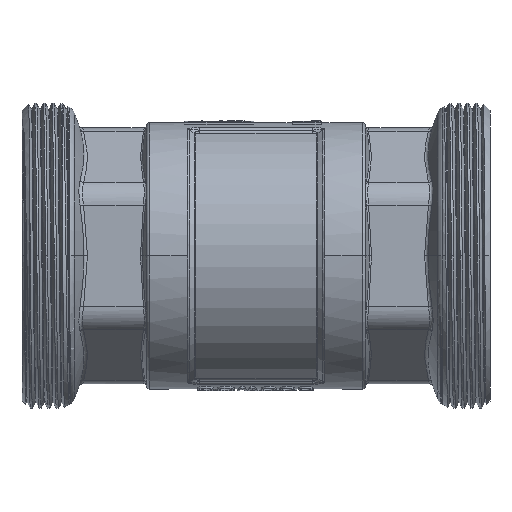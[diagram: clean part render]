
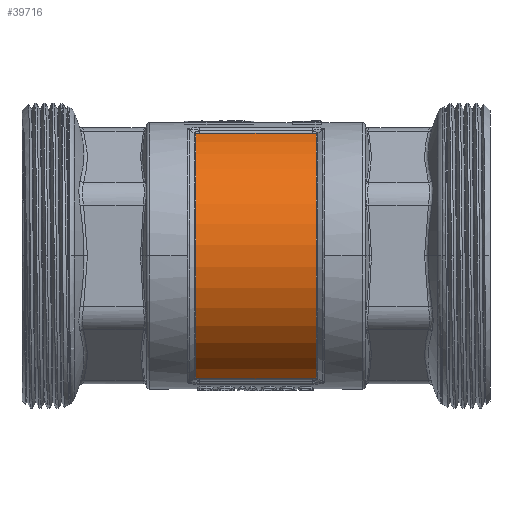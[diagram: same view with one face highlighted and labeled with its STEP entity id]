
A CAD part, front view. The second image highlights one B-rep face of the part: STEP entity #39716.
In plain terms, the highlighted cylindrical face has radius 34.5 mm (diameter 69 mm), a partial arc.
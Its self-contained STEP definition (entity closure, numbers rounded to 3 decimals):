
#12974=CARTESIAN_POINT('',(16.032,0.,0.));
#12975=DIRECTION('',(1.,0.,0.));
#12976=DIRECTION('',(0.,-0.33,0.944));
#12977=AXIS2_PLACEMENT_3D('',#12974,#12975,#12976);
#12989=CARTESIAN_POINT('',(16.032,-11.383,
-32.568));
#12990=CARTESIAN_POINT('',(16.032,-11.349,
-32.58));
#12991=CARTESIAN_POINT('',(16.024,-11.281,
-32.604));
#12992=CARTESIAN_POINT('',(15.984,-11.176,
-32.64));
#12993=CARTESIAN_POINT('',(15.907,-11.074,
-32.674));
#12994=CARTESIAN_POINT('',(15.79,-10.984,
-32.705));
#12995=CARTESIAN_POINT('',(15.638,-10.91,
-32.729));
#12996=CARTESIAN_POINT('',(15.455,-10.857,
-32.747));
#12997=CARTESIAN_POINT('',(15.243,-10.824,
-32.758));
#12998=CARTESIAN_POINT('',(15.083,-10.816,
-32.761));
#12999=CARTESIAN_POINT('',(14.999,-10.816,
-32.761));
#13017=DIRECTION('',(-1.,0.,0.));
#13018=VECTOR('',#13017,29.998);
#13019=CARTESIAN_POINT('',(14.999,-10.816,
-32.761));
#13020=LINE('',#13019,#13018);
#13030=CARTESIAN_POINT('',(-14.999,-10.816,
-32.761));
#13031=CARTESIAN_POINT('',(-15.083,-10.816,
-32.761));
#13032=CARTESIAN_POINT('',(-15.243,-10.824,
-32.758));
#13033=CARTESIAN_POINT('',(-15.455,-10.857,
-32.747));
#13034=CARTESIAN_POINT('',(-15.638,-10.91,
-32.729));
#13035=CARTESIAN_POINT('',(-15.79,-10.984,
-32.705));
#13036=CARTESIAN_POINT('',(-15.907,-11.074,
-32.674));
#13037=CARTESIAN_POINT('',(-15.984,-11.176,
-32.64));
#13038=CARTESIAN_POINT('',(-16.024,-11.281,
-32.604));
#13039=CARTESIAN_POINT('',(-16.032,-11.349,
-32.58));
#13040=CARTESIAN_POINT('',(-16.032,-11.383,
-32.568));
#13058=CARTESIAN_POINT('',(-16.032,0.,0.));
#13059=DIRECTION('',(-1.,0.,0.));
#13060=DIRECTION('',(0.,-0.33,-0.944));
#13061=AXIS2_PLACEMENT_3D('',#13058,#13059,#13060);
#13073=CARTESIAN_POINT('',(-16.032,-11.383,
32.568));
#13074=CARTESIAN_POINT('',(-16.032,-11.349,
32.58));
#13075=CARTESIAN_POINT('',(-16.024,-11.281,
32.604));
#13076=CARTESIAN_POINT('',(-15.984,-11.176,
32.64));
#13077=CARTESIAN_POINT('',(-15.907,-11.074,
32.674));
#13078=CARTESIAN_POINT('',(-15.79,-10.984,
32.705));
#13079=CARTESIAN_POINT('',(-15.638,-10.91,
32.729));
#13080=CARTESIAN_POINT('',(-15.455,-10.857,
32.747));
#13081=CARTESIAN_POINT('',(-15.243,-10.824,
32.758));
#13082=CARTESIAN_POINT('',(-15.083,-10.816,
32.761));
#13083=CARTESIAN_POINT('',(-14.999,-10.816,
32.761));
#13101=DIRECTION('',(1.,0.,0.));
#13102=VECTOR('',#13101,29.998);
#13103=CARTESIAN_POINT('',(-14.999,-10.816,
32.761));
#13104=LINE('',#13103,#13102);
#13114=CARTESIAN_POINT('',(14.999,-10.816,
32.761));
#13115=CARTESIAN_POINT('',(15.083,-10.816,
32.761));
#13116=CARTESIAN_POINT('',(15.243,-10.824,
32.758));
#13117=CARTESIAN_POINT('',(15.455,-10.857,
32.747));
#13118=CARTESIAN_POINT('',(15.638,-10.91,
32.729));
#13119=CARTESIAN_POINT('',(15.79,-10.984,
32.705));
#13120=CARTESIAN_POINT('',(15.907,-11.074,
32.674));
#13121=CARTESIAN_POINT('',(15.984,-11.176,
32.64));
#13122=CARTESIAN_POINT('',(16.024,-11.281,
32.604));
#13123=CARTESIAN_POINT('',(16.032,-11.349,
32.58));
#13124=CARTESIAN_POINT('',(16.032,-11.383,
32.568));
#20757=VERTEX_POINT('',#12989);
#20758=VERTEX_POINT('',#12999);
#20761=CARTESIAN_POINT('',(-14.999,-10.816,
-32.761));
#20762=VERTEX_POINT('',#20761);
#20765=VERTEX_POINT('',#13040);
#20767=CARTESIAN_POINT('',(-16.032,-11.383,
32.568));
#20768=VERTEX_POINT('',#20767);
#20771=VERTEX_POINT('',#13083);
#20773=CARTESIAN_POINT('',(14.999,-10.816,
32.761));
#20774=VERTEX_POINT('',#20773);
#20777=VERTEX_POINT('',#13124);
#39694=CARTESIAN_POINT('',(-30.8,0.,0.));
#39695=DIRECTION('',(1.,0.,0.));
#39696=DIRECTION('',(0.,-1.,0.));
#39697=AXIS2_PLACEMENT_3D('',#39694,#39695,#39696);
#39698=CYLINDRICAL_SURFACE('',#39697,34.5);
#39700=ORIENTED_EDGE('',*,*,#39699,.T.);
#39702=ORIENTED_EDGE('',*,*,#39701,.T.);
#39704=ORIENTED_EDGE('',*,*,#39703,.T.);
#39706=ORIENTED_EDGE('',*,*,#39705,.T.);
#39708=ORIENTED_EDGE('',*,*,#39707,.T.);
#39710=ORIENTED_EDGE('',*,*,#39709,.T.);
#39712=ORIENTED_EDGE('',*,*,#39711,.T.);
#39713=ORIENTED_EDGE('',*,*,#39684,.T.);
#39714=EDGE_LOOP('',(#39700,#39702,#39704,#39706,#39708,#39710,#39712,#39713));
#39715=FACE_OUTER_BOUND('',#39714,.F.);
#12978=CIRCLE('',#12977,34.5);
#13000=B_SPLINE_CURVE_WITH_KNOTS('',3,(#12989,#12990,#12991,#12992,#12993,
#12994,#12995,#12996,#12997,#12998,#12999),.UNSPECIFIED.,.F.,.F.,(4,1,1,1,1,1,1,
1,4),(0.,0.125,0.25,0.375,0.5,0.625,0.75,0.875,1.),
.UNSPECIFIED.);
#13041=B_SPLINE_CURVE_WITH_KNOTS('',3,(#13030,#13031,#13032,#13033,#13034,
#13035,#13036,#13037,#13038,#13039,#13040),.UNSPECIFIED.,.F.,.F.,(4,1,1,1,1,1,1,
1,4),(0.,0.125,0.25,0.375,0.5,0.625,0.75,0.875,1.),
.UNSPECIFIED.);
#13062=CIRCLE('',#13061,34.5);
#13084=B_SPLINE_CURVE_WITH_KNOTS('',3,(#13073,#13074,#13075,#13076,#13077,
#13078,#13079,#13080,#13081,#13082,#13083),.UNSPECIFIED.,.F.,.F.,(4,1,1,1,1,1,1,
1,4),(0.,0.125,0.25,0.375,0.5,0.625,0.75,0.875,1.),
.UNSPECIFIED.);
#13125=B_SPLINE_CURVE_WITH_KNOTS('',3,(#13114,#13115,#13116,#13117,#13118,
#13119,#13120,#13121,#13122,#13123,#13124),.UNSPECIFIED.,.F.,.F.,(4,1,1,1,1,1,1,
1,4),(0.,0.125,0.25,0.375,0.5,0.625,0.75,0.875,1.),
.UNSPECIFIED.);
#39684=EDGE_CURVE('',#20777,#20757,#12978,.T.);
#39699=EDGE_CURVE('',#20757,#20758,#13000,.T.);
#39701=EDGE_CURVE('',#20758,#20762,#13020,.T.);
#39703=EDGE_CURVE('',#20762,#20765,#13041,.T.);
#39705=EDGE_CURVE('',#20765,#20768,#13062,.T.);
#39707=EDGE_CURVE('',#20768,#20771,#13084,.T.);
#39709=EDGE_CURVE('',#20771,#20774,#13104,.T.);
#39711=EDGE_CURVE('',#20774,#20777,#13125,.T.);
#39716=ADVANCED_FACE('',(#39715),#39698,.T.);
